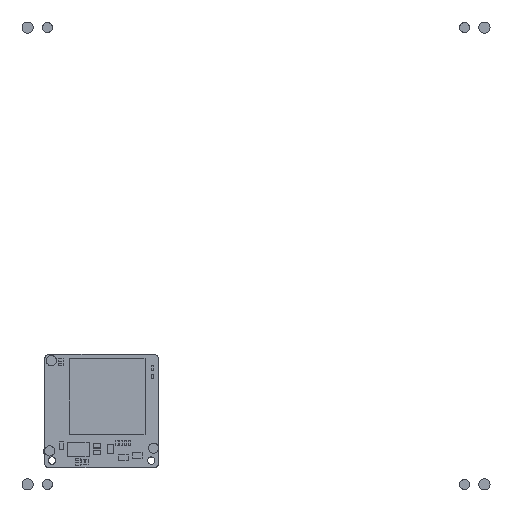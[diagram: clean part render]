
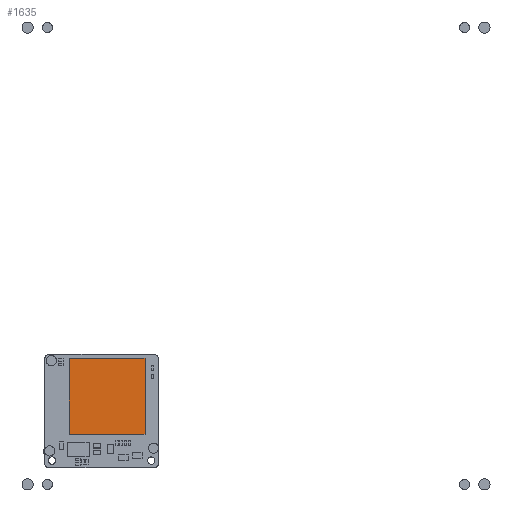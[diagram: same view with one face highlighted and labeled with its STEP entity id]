
A CAD part, top view. The second image highlights one B-rep face of the part: STEP entity #1635.
In plain terms, the highlighted planar face has unit normal (0, 0, 1).
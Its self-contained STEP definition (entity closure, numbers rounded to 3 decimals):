
#1300=FACE_OUTER_BOUND($,#1421,.F.);
#1421=EDGE_LOOP($,(#2474,#2475,#2476,#2477));
#1522=PLANE($,#1868);
#1635=ADVANCED_FACE($,(#1300),#1522,.T.);
#1868=AXIS2_PLACEMENT_3D($,#4753,#3934,$);
#2474=ORIENTED_EDGE($,*,*,#2836,.T.);
#2475=ORIENTED_EDGE($,*,*,#2837,.T.);
#2476=ORIENTED_EDGE($,*,*,#2838,.T.);
#2477=ORIENTED_EDGE($,*,*,#2839,.T.);
#2836=EDGE_CURVE($,#3516,#3517,#3292,.T.);
#2837=EDGE_CURVE($,#3517,#3518,#3293,.T.);
#2838=EDGE_CURVE($,#3518,#3519,#3294,.T.);
#2839=EDGE_CURVE($,#3519,#3516,#3295,.T.);
#3066=VECTOR($,#4124,17.);
#3067=VECTOR($,#4125,17.);
#3068=VECTOR($,#4126,17.);
#3069=VECTOR($,#4127,17.);
#3292=LINE($,#4752,#3066);
#3293=LINE($,#4753,#3067);
#3294=LINE($,#4754,#3068);
#3295=LINE($,#4755,#3069);
#3516=VERTEX_POINT($,#4752);
#3517=VERTEX_POINT($,#4753);
#3518=VERTEX_POINT($,#4754);
#3519=VERTEX_POINT($,#4755);
#3934=DIRECTION($,(0.,0.,1.));
#4124=DIRECTION($,(-1.,0.,0.));
#4125=DIRECTION($,(0.,1.,0.));
#4126=DIRECTION($,(1.,0.,0.));
#4127=DIRECTION($,(0.,-1.,0.));
#4752=CARTESIAN_POINT('',(8.5,-8.5,2.626));
#4753=CARTESIAN_POINT('',(-8.5,-8.5,2.626));
#4754=CARTESIAN_POINT('',(-8.5,8.5,2.626));
#4755=CARTESIAN_POINT('',(8.5,8.5,2.626));
